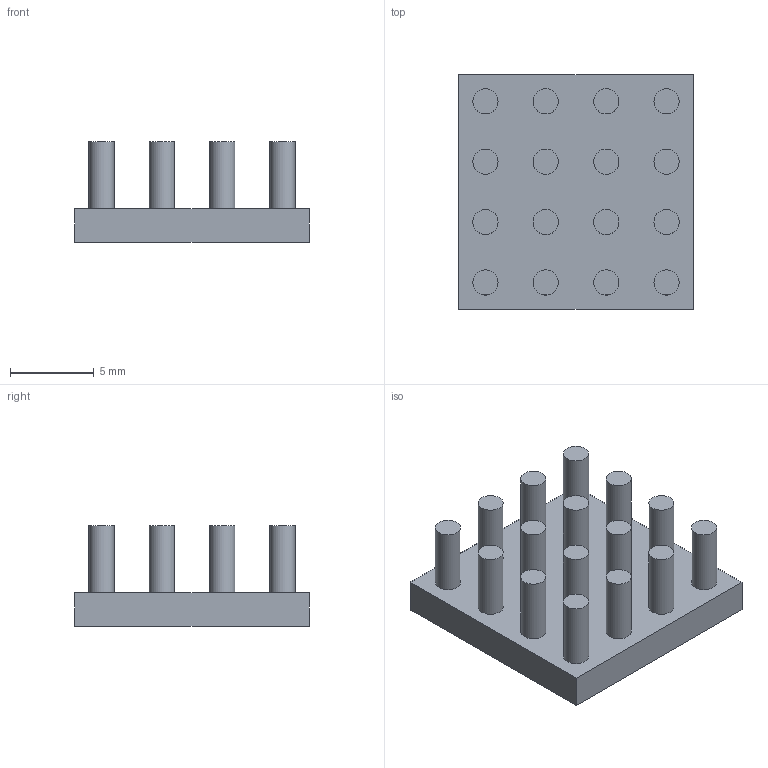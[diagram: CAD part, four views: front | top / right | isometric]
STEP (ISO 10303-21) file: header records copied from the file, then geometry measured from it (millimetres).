
FILE_DESCRIPTION(/* description */ (''),/* implementation_level */ '2;1');
FILE_NAME(/* name */ 'PB1414-B2-H6-P16.stp',/* time_stamp */ '2013-12-30T13:23:53+08:00',/* author */ (''),/* organization */ (''),/* preprocessor_version */ 'ST-DEVELOPER v14',/* originating_system */ 'SIEMENS PLM Software NX 8.0',/* authorisation */ '');
FILE_SCHEMA (('CONFIG_CONTROL_DESIGN'));
Length unit declared in the file: millimetre
Products named in the file (1): PB1414-P16
Bounding box: 14 x 14 x 6 mm (x, y, z)
Volume: 505.1 mm3; surface area: 805.6 mm2
Topology: 1 solids, 1 shells, 38 faces, 60 edges, 40 vertices
Faces by surface type: plane 22, cylinder 16
Full cylindrical faces by diameter (mm): 1.5 x16
Entity records: 880 total; most frequent: DIRECTION 154, CARTESIAN_POINT 123, ORIENTED_EDGE 88, AXIS2_PLACEMENT_3D 71, EDGE_LOOP 70, FACE_BOUND 49, EDGE_CURVE 44, VERTEX_POINT 40
